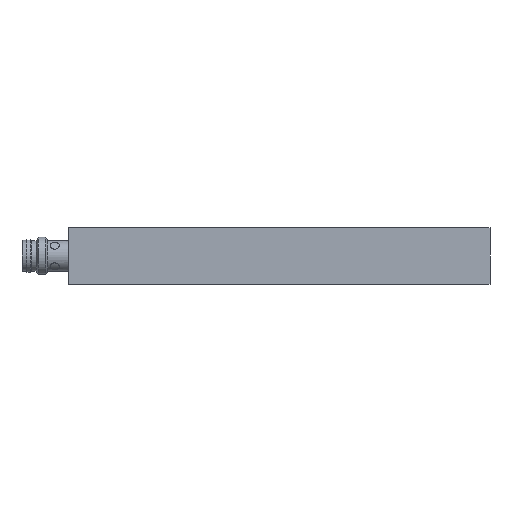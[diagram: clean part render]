
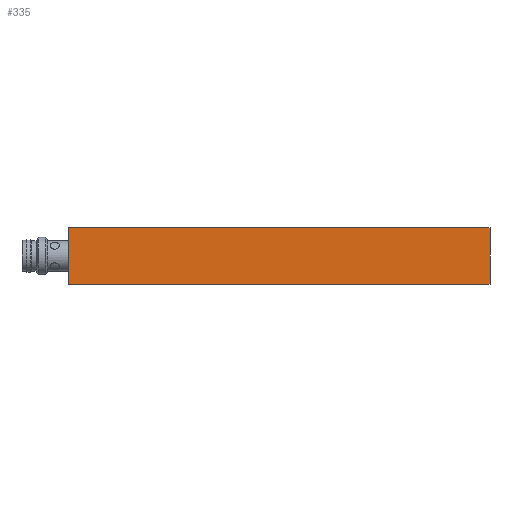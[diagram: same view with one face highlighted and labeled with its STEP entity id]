
A CAD part, front view. The second image highlights one B-rep face of the part: STEP entity #335.
In plain terms, the highlighted planar face has unit normal (0, -1, 0).
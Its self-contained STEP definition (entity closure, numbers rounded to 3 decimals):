
#335 = ADVANCED_FACE( '', ( #718 ), #719, .T. );
#718 = FACE_OUTER_BOUND( '', #1093, .T. );
#719 = PLANE( '', #1094 );
#1093 = EDGE_LOOP( '', ( #1937, #1938, #1939, #1940 ) );
#1094 = AXIS2_PLACEMENT_3D( '', #1941, #1942, #1943 );
#1937 = ORIENTED_EDGE( '', *, *, #2083, .T. );
#1938 = ORIENTED_EDGE( '', *, *, #2023, .F. );
#1939 = ORIENTED_EDGE( '', *, *, #2212, .T. );
#1940 = ORIENTED_EDGE( '', *, *, #2224, .T. );
#1941 = CARTESIAN_POINT( '', ( 53.54, -116.987, 0. ) );
#1942 = DIRECTION( '', ( 0., -1., 0. ) );
#1943 = DIRECTION( '', ( 0., 0., -1. ) );
#2023 = EDGE_CURVE( '', #2396, #2394, #2398, .T. );
#2083 = EDGE_CURVE( '', #2497, #2394, #2498, .T. );
#2212 = EDGE_CURVE( '', #2396, #2678, #2681, .T. );
#2224 = EDGE_CURVE( '', #2678, #2497, #2698, .T. );
#2394 = VERTEX_POINT( '', #2917 );
#2396 = VERTEX_POINT( '', #2920 );
#2398 = LINE( '', #2923, #2924 );
#2497 = VERTEX_POINT( '', #3090 );
#2498 = LINE( '', #3091, #3092 );
#2678 = VERTEX_POINT( '', #3544 );
#2681 = LINE( '', #3548, #3549 );
#2698 = LINE( '', #3571, #3572 );
#2917 = CARTESIAN_POINT( '', ( -36.46, -116.987, 12. ) );
#2920 = CARTESIAN_POINT( '', ( -36.46, -116.987, 0. ) );
#2923 = CARTESIAN_POINT( '', ( -36.46, -116.987, 0. ) );
#2924 = VECTOR( '', #3736, 1000. );
#3090 = CARTESIAN_POINT( '', ( 53.54, -116.987, 12. ) );
#3091 = CARTESIAN_POINT( '', ( 53.54, -116.987, 12. ) );
#3092 = VECTOR( '', #3801, 1000. );
#3544 = CARTESIAN_POINT( '', ( 53.54, -116.987, 0. ) );
#3548 = CARTESIAN_POINT( '', ( -36.46, -116.987, 0. ) );
#3549 = VECTOR( '', #3904, 1000. );
#3571 = CARTESIAN_POINT( '', ( 53.54, -116.987, 0. ) );
#3572 = VECTOR( '', #3919, 1000. );
#3736 = DIRECTION( '', ( 0., 0., 1. ) );
#3801 = DIRECTION( '', ( -1., 0., 0. ) );
#3904 = DIRECTION( '', ( 1., 0., 0. ) );
#3919 = DIRECTION( '', ( 0., 0., 1. ) );
